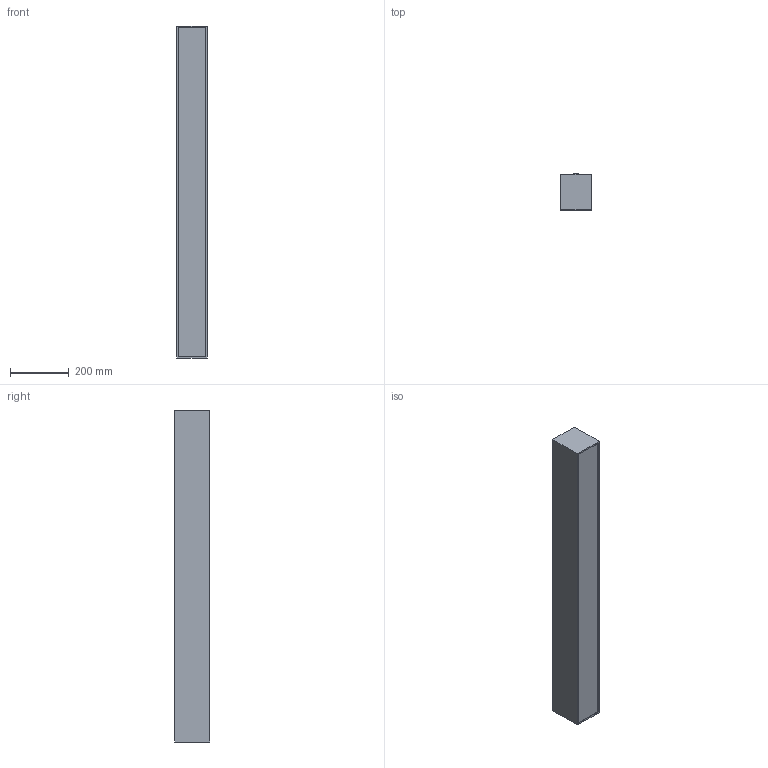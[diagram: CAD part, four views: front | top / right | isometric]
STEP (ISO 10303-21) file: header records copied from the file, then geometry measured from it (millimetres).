
FILE_DESCRIPTION (( 'STEP AP214' ), '1' );
FILE_NAME ('mLight KleoX105 LED_1134mm_Direct _Indirect.STEP', '2020-07-29T03:03:42', ( '' ), ( '' ), 'SwSTEP 2.0', 'SolidWorks 2017', '' );
FILE_SCHEMA (( 'AUTOMOTIVE_DESIGN' ));
Length unit declared in the file: millimetre
Products named in the file (1): mLight KleoX105 LED_1134mm_Direct _Indirect
Bounding box: 105 x 121.73 x 1134 mm (x, y, z)
Volume: 13973716.9 mm3; surface area: 666592 mm2
Topology: 1 solids, 1 shells, 116 faces, 320 edges, 212 vertices
Faces by surface type: plane 69, cylinder 47
Entity records: 3748 total; most frequent: CARTESIAN_POINT 661, DIRECTION 648, ORIENTED_EDGE 640, EDGE_CURVE 320, VECTOR 218, LINE 218, AXIS2_PLACEMENT_3D 215, VERTEX_POINT 212
